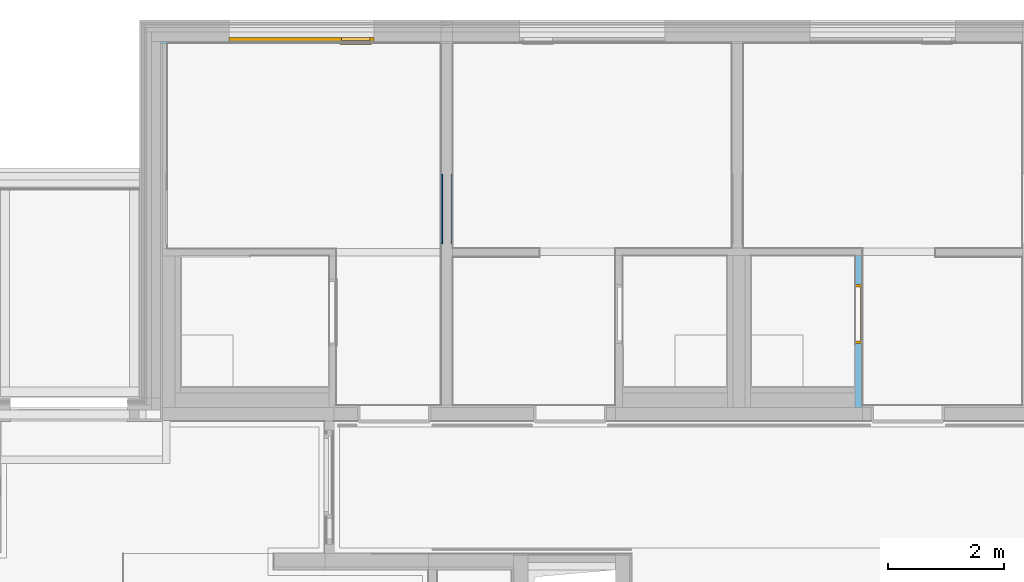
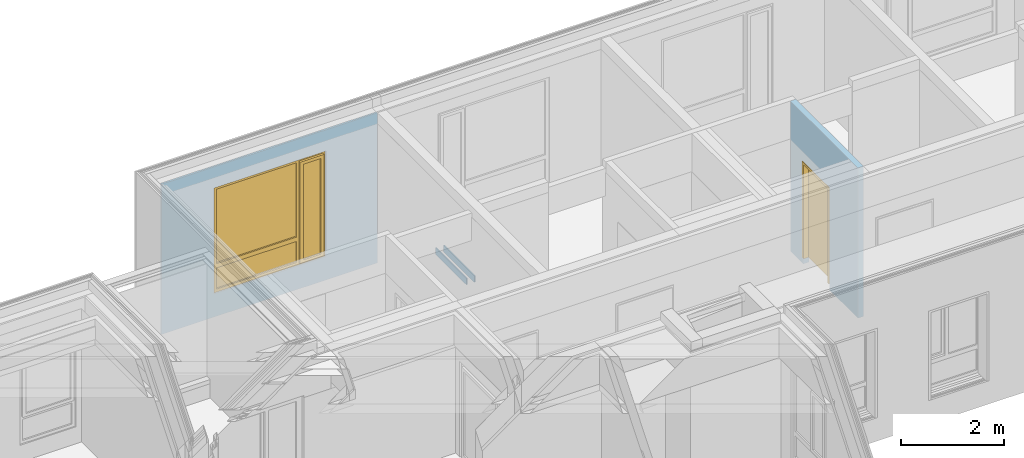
# One storey, part 141 of 222: 2 walls, 1 door, 1 window, 2 openings, plus 2 elements that do not belong to this part.
"""IFC4 building model written with IfcOpenShell, lengths in metres."""

from ifc_helpers import new_model, entity, si_unit, converted_unit, derived_unit, frame, frame_2d, origin, origin_with_axes, place, context, subcontext, project, spatial, polyline, rectangle, outline, extrude, closed_shell, open_shell, faceted_brep, surface_model, source, transform, mapped, material, type_object, element, fill, save


model = new_model("IFC4")

# Units and contexts
model_context = context("Model", 3, precision=1e-05, world=origin())
body_context = subcontext(model_context, "Body", "Model", "MODEL_VIEW")
ifc_project = project(units=[si_unit("LENGTHUNIT", "METRE"), si_unit("AREAUNIT", "SQUARE_METRE"), si_unit("VOLUMEUNIT", "CUBIC_METRE"), si_unit("MASSUNIT", "GRAM", prefix="KILO"), converted_unit("PLANEANGLEUNIT", "DEGREE", entity("IfcPlaneAngleMeasure", 0.0174532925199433), si_unit("PLANEANGLEUNIT", "RADIAN"), dimensions=[0, 0, 0, 0, 0, 0, 0]), derived_unit("THERMALTRANSMITTANCEUNIT", [(si_unit("POWERUNIT", "WATT"), 1), (si_unit("THERMODYNAMICTEMPERATUREUNIT", "KELVIN"), -1), (si_unit("LENGTHUNIT", "METRE"), -2)]), derived_unit("VOLUMETRICFLOWRATEUNIT", [(si_unit("LENGTHUNIT", "METRE"), 3), (converted_unit("TIMEUNIT", "hour", entity("IfcTimeMeasure", 3600.0), si_unit("TIMEUNIT", "SECOND"), dimensions=[0, 0, 1, 0, 0, 0, 0]), -1), (si_unit("LENGTHUNIT", "METRE"), -1)])], contexts=[model_context])

# Site, building, storey
site_placement = place(None, origin())
site = spatial("IfcSite", under=ifc_project, at=site_placement, Name="Psychiatrie Neubau Wunstorf", CompositionType="ELEMENT")
building_placement = place(site_placement, origin())
building = spatial("IfcBuilding", under=site, at=building_placement, Name="Neubau H2 Stationsgebäude", CompositionType="ELEMENT")
storey_placement = place(building_placement, frame((0.0, 0.0, 3.6)))
storey = spatial("IfcBuildingStorey", under=building, at=storey_placement, Name="H2 Ebene +1", CompositionType="ELEMENT", Elevation=3.6)

# Wall, opening, window
ifc_material_1 = material(Name="WA-LB")
wall_1_placement = place(storey_placement, frame((71.075, 31.614, 0.0), z_axis=(0.0, 0.0, 1.0), x_axis=(1.0, -3.01594097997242e-15, 0.0)))
wall_1 = element("IfcWall", 1, at=wall_1_placement, inside=storey, material=ifc_material_1, context=body_context, shape_type="SweptSolid", body=[
    extrude(rectangle(XDim=4.82499999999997, YDim=0.036, at=frame_2d((2.41249999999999, 0.018), x_axis=(1.0, 0.0))), origin_with_axes(), (0.0, 0.0, 1.0), 3.55),
])
opening_1_placement = place(wall_1_placement, frame((1.17499999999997, 0.0, 0.55), z_axis=(0.0, 1.0, 0.0), x_axis=(0.0, 0.0, 1.0)))
opening_1 = element("IfcOpeningElement", 2, at=opening_1_placement, cuts=wall_1, Name="Fensteröffnung", ObjectType="Opening", context=body_context, shape_type="SweptSolid", body=[
    extrude(outline(polyline([(2.5, 2.5), (2.5, 0.0), (0.0, 0.0), (0.0, 2.5), (2.5, 2.5)])), origin_with_axes(), (0.0, 0.0, 1.0), 0.0360000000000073),
])
shared_shape_1 = source(origin_with_axes(), body_context, "Body", "SurfaceModel", [
    surface_model("IfcShellBasedSurfaceModel", [(2.5, 0.0, 2.5), (2.5, 0.0, 0.0), (2.43, 0.0, 0.0), (2.43, 0.0, 2.5), (2.5, 0.0699999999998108, 0.0), (2.5, 0.0699999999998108, 2.5), (2.43, 0.0699999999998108, 2.5), (2.43, 0.0699999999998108, 0.0)], [closed_shell([[[0, 1, 2, 3]], [[4, 5, 6, 7]], [[1, 0, 5, 4]], [[2, 1, 4, 7]], [[3, 2, 7, 6]], [[0, 3, 6, 5]]], orient=[[False], [False], [False], [False], [False], [False]])]),
    surface_model("IfcShellBasedSurfaceModel", [(0.07, 0.0, 2.5), (0.07, 0.0, 0.0), (0.0, 0.0, 0.0), (0.0, 0.0, 2.5), (0.07, 0.0699999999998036, 0.0), (0.07, 0.0699999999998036, 2.5), (0.0, 0.0699999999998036, 2.5), (0.0, 0.0699999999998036, 0.0)], [closed_shell([[[0, 1, 2, 3]], [[4, 5, 6, 7]], [[1, 0, 5, 4]], [[2, 1, 4, 7]], [[3, 2, 7, 6]], [[0, 3, 6, 5]]], orient=[[False], [False], [False], [False], [False], [False]])]),
    surface_model("IfcShellBasedSurfaceModel", [(2.43, 0.0, 0.07), (2.43, 0.0, 0.0), (0.07, 0.0, 0.0), (0.07, 0.0, 0.07), (2.43, 0.0699999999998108, 0.0), (2.43, 0.0699999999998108, 0.07), (0.07, 0.0699999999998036, 0.07), (0.07, 0.0699999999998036, 0.0)], [closed_shell([[[0, 1, 2, 3]], [[4, 5, 6, 7]], [[1, 0, 5, 4]], [[2, 1, 4, 7]], [[3, 2, 7, 6]], [[0, 3, 6, 5]]], orient=[[False], [False], [False], [False], [False], [False]])]),
    surface_model("IfcShellBasedSurfaceModel", [(2.43, 0.0, 2.5), (2.43, 0.0, 2.43), (0.07, 0.0, 2.43), (0.07, 0.0, 2.5), (2.43, 0.0699999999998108, 2.43), (2.43, 0.0699999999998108, 2.5), (0.07, 0.0699999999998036, 2.5), (0.07, 0.0699999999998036, 2.43)], [closed_shell([[[0, 1, 2, 3]], [[4, 5, 6, 7]], [[1, 0, 5, 4]], [[2, 1, 4, 7]], [[3, 2, 7, 6]], [[0, 3, 6, 5]]], orient=[[False], [False], [False], [False], [False], [False]])]),
    surface_model("IfcShellBasedSurfaceModel", [(1.934285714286, 0.0, 2.43), (1.934285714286, 0.0, 0.07), (1.864285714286, 0.0, 0.07), (1.864285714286, 0.0, 2.43), (1.934285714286, 0.0699999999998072, 0.07), (1.934285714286, 0.0699999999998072, 2.43), (1.864285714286, 0.0699999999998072, 2.43), (1.864285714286, 0.0699999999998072, 0.07)], [closed_shell([[[0, 1, 2, 3]], [[4, 5, 6, 7]], [[1, 0, 5, 4]], [[2, 1, 4, 7]], [[3, 2, 7, 6]], [[0, 3, 6, 5]]], orient=[[False], [False], [False], [False], [False], [False]])]),
    surface_model("IfcShellBasedSurfaceModel", [(2.45, -0.05, 2.45), (2.45, -0.05, 0.05), (2.38, -0.05, 0.05), (2.38, -0.05, 2.45), (2.45, 0.0199999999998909, 0.05), (2.45, 0.0199999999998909, 2.45), (2.38, 0.0199999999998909, 2.45), (2.38, 0.0199999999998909, 0.05)], [closed_shell([[[0, 1, 2, 3]], [[4, 5, 6, 7]], [[1, 0, 5, 4]], [[2, 1, 4, 7]], [[3, 2, 7, 6]], [[0, 3, 6, 5]]], orient=[[False], [False], [False], [False], [False], [False]])]),
    surface_model("IfcShellBasedSurfaceModel", [(1.984285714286, -0.0500000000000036, 2.45), (1.984285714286, -0.0500000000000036, 0.05), (1.914285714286, -0.0500000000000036, 0.05), (1.914285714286, -0.0500000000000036, 2.45), (1.984285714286, 0.0199999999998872, 0.05), (1.984285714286, 0.0199999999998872, 2.45), (1.914285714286, 0.0199999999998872, 2.45), (1.914285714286, 0.0199999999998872, 0.05)], [closed_shell([[[0, 1, 2, 3]], [[4, 5, 6, 7]], [[1, 0, 5, 4]], [[2, 1, 4, 7]], [[3, 2, 7, 6]], [[0, 3, 6, 5]]], orient=[[False], [False], [False], [False], [False], [False]])]),
    surface_model("IfcShellBasedSurfaceModel", [(2.38, -0.05, 0.12), (2.38, -0.05, 0.05), (1.984285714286, -0.0500000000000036, 0.05), (1.984285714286, -0.0500000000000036, 0.12), (2.38, 0.0199999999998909, 0.05), (2.38, 0.0199999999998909, 0.12), (1.984285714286, 0.0199999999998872, 0.12), (1.984285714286, 0.0199999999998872, 0.05)], [closed_shell([[[0, 1, 2, 3]], [[4, 5, 6, 7]], [[1, 0, 5, 4]], [[2, 1, 4, 7]], [[3, 2, 7, 6]], [[0, 3, 6, 5]]], orient=[[False], [False], [False], [False], [False], [False]])]),
    surface_model("IfcShellBasedSurfaceModel", [(2.38, -0.05, 2.45), (2.38, -0.05, 2.38), (1.984285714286, -0.0500000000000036, 2.38), (1.984285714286, -0.0500000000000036, 2.45), (2.38, 0.0199999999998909, 2.38), (2.38, 0.0199999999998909, 2.45), (1.984285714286, 0.0199999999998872, 2.45), (1.984285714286, 0.0199999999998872, 2.38)], [closed_shell([[[0, 1, 2, 3]], [[4, 5, 6, 7]], [[1, 0, 5, 4]], [[2, 1, 4, 7]], [[3, 2, 7, 6]], [[0, 3, 6, 5]]], orient=[[False], [False], [False], [False], [False], [False]])]),
    surface_model("IfcShellBasedSurfaceModel", [(1.864285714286, 0.0, 0.67), (1.864285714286, 0.0, 0.57), (0.07, 0.0, 0.57), (0.07, 0.0, 0.67), (1.864285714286, 0.0699999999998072, 0.57), (1.864285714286, 0.0699999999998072, 0.67), (0.07, 0.0699999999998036, 0.67), (0.07, 0.0699999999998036, 0.57)], [closed_shell([[[0, 1, 2, 3]], [[4, 5, 6, 7]], [[1, 0, 5, 4]], [[2, 1, 4, 7]], [[3, 2, 7, 6]], [[0, 3, 6, 5]]], orient=[[False], [False], [False], [False], [False], [False]])]),
    surface_model("IfcShellBasedSurfaceModel", [(2.38, -0.0150000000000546, 0.12), (1.984285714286, -0.0150000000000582, 0.12), (1.984285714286, -0.0150000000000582, 2.38), (2.38, -0.0150000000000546, 2.38)], [open_shell([[[0, 1, 2, 3]]], orient=[[False]])]),
    surface_model("IfcShellBasedSurfaceModel", [(1.864285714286, 0.0349999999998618, 0.07), (0.07, 0.0349999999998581, 0.07), (0.07, 0.0349999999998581, 0.57), (1.864285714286, 0.0349999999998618, 0.57)], [open_shell([[[0, 1, 2, 3]]], orient=[[False]])]),
    surface_model("IfcShellBasedSurfaceModel", [(1.864285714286, 0.0349999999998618, 0.67), (0.07, 0.0349999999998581, 0.67), (0.07, 0.0349999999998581, 2.43), (1.864285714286, 0.0349999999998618, 2.43)], [open_shell([[[0, 1, 2, 3]]], orient=[[False]])]),
])
window_placement = place(opening_1_placement, frame((0.0, 0.0, 0.03), z_axis=(1.0, 0.0, 0.0), x_axis=(0.0, 1.0, 1.05557934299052e-16)))
window = element("IfcWindow", 3, at=window_placement, inside=storey, Name="Fenster", OverallHeight=2.5, OverallWidth=2.5, PartitioningType="USERDEFINED", PredefinedType="WINDOW", context=body_context, shape_type="MappedRepresentation", body=[
    mapped(shared_shape_1, transform((0.0, 0.0, 0.0), x_axis=(1.0, 0.0, 0.0), y_axis=(0.0, 1.0, 0.0), z_axis=(0.0, 0.0, 1.0), scale=1.0)),
])
fill(opening_1, window)

# Wall, opening, door
ifc_material_2 = material(Name="WI-LB")
wall_2_placement = place(storey_placement, frame((83.025, 27.9645, 0.0), z_axis=(0.0, 0.0, 1.0), x_axis=(0.0, -1.0, 0.0)))
wall_2 = element("IfcWall", 4, at=wall_2_placement, inside=storey, material=ifc_material_2, context=body_context, shape_type="SweptSolid", body=[
    extrude(rectangle(XDim=2.615, YDim=0.125, at=frame_2d((1.3075, 0.0625), x_axis=(1.0, 0.0))), origin_with_axes(), (0.0, 0.0, 1.0), 3.55),
])
opening_2_placement = place(wall_2_placement, frame((0.5, 0.0, 0.0), z_axis=(0.0, 1.0, 0.0), x_axis=(0.0, 0.0, 1.0)))
opening_2 = element("IfcOpeningElement", 5, at=opening_2_placement, cuts=wall_2, Name="Türöffnung", ObjectType="Opening", context=body_context, shape_type="SweptSolid", body=[
    extrude(outline(polyline([(2.41, 1.01), (2.41, 0.0), (0.0, 0.0), (0.0, 1.01), (2.41, 1.01)])), origin_with_axes(), (0.0, 0.0, 1.0), 0.125),
])
ifc_material_3 = material(Name="TI-1F-UZ-D-N")
door_type = type_object("IfcDoorType", Name="SMT", OperationType="SINGLE_SWING_RIGHT", ParameterTakesPrecedence=False, PredefinedType="DOOR")
shared_shape_2 = source(origin_with_axes(), body_context, "Body", "Brep", [
    faceted_brep([(-0.0399999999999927, 0.0124999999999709, 0.0), (0.0, 0.0124999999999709, 0.0), (0.0, 0.112499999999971, 0.0), (-0.0399999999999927, 0.112499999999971, 0.0), (-0.0399999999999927, 0.112499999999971, 3.55), (0.0, 0.112499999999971, 3.55), (0.0, 0.0124999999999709, 3.55), (-0.0399999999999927, 0.0124999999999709, 3.55)], [[[0, 1, 2, 3]], [[4, 5, 6, 7]], [[3, 4, 7, 0]], [[2, 5, 4, 3]], [[1, 6, 5, 2]], [[0, 7, 6, 1]]], orient=[[False], [False], [False], [False], [False], [False]]),
    faceted_brep([(1.01000000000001, 0.0124999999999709, 0.0), (1.05000000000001, 0.0124999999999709, 0.0), (1.05000000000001, 0.112499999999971, 0.0), (1.01000000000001, 0.112499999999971, 0.0), (1.01000000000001, 0.112499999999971, 3.55), (1.05000000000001, 0.112499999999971, 3.55), (1.05000000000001, 0.0124999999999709, 3.55), (1.01000000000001, 0.0124999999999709, 3.55)], [[[0, 1, 2, 3]], [[4, 5, 6, 7]], [[3, 4, 7, 0]], [[2, 5, 4, 3]], [[1, 6, 5, 2]], [[0, 7, 6, 1]]], orient=[[False], [False], [False], [False], [False], [False]]),
    faceted_brep([(0.0, 0.0124999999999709, 2.41), (1.01000000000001, 0.0124999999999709, 2.41), (1.01000000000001, 0.112499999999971, 2.41), (0.0, 0.112499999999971, 2.41), (0.0, 0.112499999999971, 2.45), (1.01000000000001, 0.112499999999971, 2.45), (1.01000000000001, 0.0124999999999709, 2.45), (0.0, 0.0124999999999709, 2.45)], [[[0, 1, 2, 3]], [[4, 5, 6, 7]], [[3, 4, 7, 0]], [[2, 5, 4, 3]], [[1, 6, 5, 2]], [[0, 7, 6, 1]]], orient=[[False], [False], [False], [False], [False], [False]]),
])
shared_shape_3 = source(origin_with_axes(), body_context, "Body", "Brep", [
    faceted_brep([(1.01000000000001, -0.0150000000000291, 2.41), (1.01000000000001, -0.0150000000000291, 0.15), (0.970000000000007, -0.0150000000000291, 0.15), (0.970000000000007, -0.0150000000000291, 2.41), (1.01000000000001, 0.139999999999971, 0.15), (1.01000000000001, 0.139999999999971, 2.41), (0.970000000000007, 0.139999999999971, 2.41), (0.970000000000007, 0.139999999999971, 0.15)], [[[0, 1, 2, 3]], [[4, 5, 6, 7]], [[1, 0, 5, 4]], [[2, 1, 4, 7]], [[3, 2, 7, 6]], [[0, 3, 6, 5]]], orient=[[False], [False], [False], [False], [False], [False]]),
    faceted_brep([(1.01000000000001, -0.0150000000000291, 2.425), (1.02500000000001, -0.0150000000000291, 2.425), (1.02500000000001, -0.0150000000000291, 0.15), (1.01000000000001, -0.0150000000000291, 0.15), (1.01000000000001, 0.0, 0.15), (1.02500000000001, 0.0, 0.15), (1.02500000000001, 0.0, 2.425), (1.01000000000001, 0.0, 2.425)], [[[0, 1, 2, 3]], [[4, 5, 6, 7]], [[3, 4, 7, 0]], [[2, 5, 4, 3]], [[1, 6, 5, 2]], [[0, 7, 6, 1]]], orient=[[False], [False], [False], [False], [False], [False]]),
    faceted_brep([(1.01000000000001, 0.124999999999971, 2.425), (1.02500000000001, 0.124999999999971, 2.425), (1.02500000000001, 0.124999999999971, 0.15), (1.01000000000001, 0.124999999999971, 0.15), (1.01000000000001, 0.139999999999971, 0.15), (1.02500000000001, 0.139999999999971, 0.15), (1.02500000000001, 0.139999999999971, 2.425), (1.01000000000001, 0.139999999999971, 2.425)], [[[0, 1, 2, 3]], [[4, 5, 6, 7]], [[3, 4, 7, 0]], [[2, 5, 4, 3]], [[1, 6, 5, 2]], [[0, 7, 6, 1]]], orient=[[False], [False], [False], [False], [False], [False]]),
    faceted_brep([(0.0400000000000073, -0.0150000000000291, 2.41), (0.0400000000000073, -0.0150000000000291, 0.15), (0.0, -0.0150000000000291, 0.15), (0.0, -0.0150000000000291, 2.41), (0.0400000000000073, 0.139999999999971, 0.15), (0.0400000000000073, 0.139999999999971, 2.41), (0.0, 0.139999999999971, 2.41), (0.0, 0.139999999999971, 0.15)], [[[0, 1, 2, 3]], [[4, 5, 6, 7]], [[1, 0, 5, 4]], [[2, 1, 4, 7]], [[3, 2, 7, 6]], [[0, 3, 6, 5]]], orient=[[False], [False], [False], [False], [False], [False]]),
    faceted_brep([(0.0, -0.0150000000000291, 2.425), (0.0, -0.0150000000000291, 0.15), (-0.0149999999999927, -0.0150000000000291, 0.15), (-0.0149999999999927, -0.0150000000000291, 2.425), (0.0, 0.0, 0.15), (0.0, 0.0, 2.425), (-0.0149999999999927, 0.0, 2.425), (-0.0149999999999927, 0.0, 0.15)], [[[0, 1, 2, 3]], [[4, 5, 6, 7]], [[1, 0, 5, 4]], [[2, 1, 4, 7]], [[3, 2, 7, 6]], [[0, 3, 6, 5]]], orient=[[False], [False], [False], [False], [False], [False]]),
    faceted_brep([(0.0, 0.124999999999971, 2.425), (0.0, 0.124999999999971, 0.15), (-0.0149999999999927, 0.124999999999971, 0.15), (-0.0149999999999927, 0.124999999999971, 2.425), (0.0, 0.139999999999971, 0.15), (0.0, 0.139999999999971, 2.425), (-0.0149999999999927, 0.139999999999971, 2.425), (-0.0149999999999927, 0.139999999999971, 0.15)], [[[0, 1, 2, 3]], [[4, 5, 6, 7]], [[1, 0, 5, 4]], [[2, 1, 4, 7]], [[3, 2, 7, 6]], [[0, 3, 6, 5]]], orient=[[False], [False], [False], [False], [False], [False]]),
    faceted_brep([(0.970000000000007, -0.0150000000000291, 2.41), (0.970000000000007, -0.0150000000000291, 2.37), (0.0400000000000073, -0.0150000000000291, 2.37), (0.0400000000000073, -0.0150000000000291, 2.41), (0.970000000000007, 0.139999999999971, 2.37), (0.970000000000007, 0.139999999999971, 2.41), (0.0400000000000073, 0.139999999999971, 2.41), (0.0400000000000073, 0.139999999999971, 2.37)], [[[0, 1, 2, 3]], [[4, 5, 6, 7]], [[1, 0, 5, 4]], [[2, 1, 4, 7]], [[3, 2, 7, 6]], [[0, 3, 6, 5]]], orient=[[False], [False], [False], [False], [False], [False]]),
    faceted_brep([(1.01000000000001, -0.0150000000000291, 2.425), (1.01000000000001, -0.0150000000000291, 2.41), (0.0, -0.0150000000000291, 2.41), (0.0, -0.0150000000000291, 2.425), (1.01000000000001, 0.0, 2.41), (1.01000000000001, 0.0, 2.425), (0.0, 0.0, 2.425), (0.0, 0.0, 2.41)], [[[0, 1, 2, 3]], [[4, 5, 6, 7]], [[1, 0, 5, 4]], [[2, 1, 4, 7]], [[3, 2, 7, 6]], [[0, 3, 6, 5]]], orient=[[False], [False], [False], [False], [False], [False]]),
    faceted_brep([(1.01000000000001, 0.124999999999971, 2.425), (1.01000000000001, 0.124999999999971, 2.41), (0.0, 0.124999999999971, 2.41), (0.0, 0.124999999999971, 2.425), (1.01000000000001, 0.139999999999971, 2.41), (1.01000000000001, 0.139999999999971, 2.425), (0.0, 0.139999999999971, 2.425), (0.0, 0.139999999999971, 2.41)], [[[0, 1, 2, 3]], [[4, 5, 6, 7]], [[1, 0, 5, 4]], [[2, 1, 4, 7]], [[3, 2, 7, 6]], [[0, 3, 6, 5]]], orient=[[False], [False], [False], [False], [False], [False]]),
    faceted_brep([(0.985000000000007, 0.0909999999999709, 2.385), (0.985000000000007, 0.0909999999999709, 0.15), (0.0250000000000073, 0.0909999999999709, 0.15), (0.0250000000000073, 0.0909999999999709, 2.385), (0.985000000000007, 0.140999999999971, 0.15), (0.985000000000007, 0.140999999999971, 2.385), (0.0250000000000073, 0.140999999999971, 2.385), (0.0250000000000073, 0.140999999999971, 0.15)], [[[0, 1, 2, 3]], [[4, 5, 6, 7]], [[1, 0, 5, 4]], [[2, 1, 4, 7]], [[3, 2, 7, 6]], [[0, 3, 6, 5]]], orient=[[False], [False], [False], [False], [False], [False]]),
])
door_placement = place(opening_2_placement, frame((0.0, 0.0, 0.0), z_axis=(1.0, 0.0, 0.0), x_axis=(0.0, 1.0, 0.0)))
door = element("IfcDoor", 6, at=door_placement, inside=storey, type_object=door_type, material=ifc_material_3, Name="SMT", OverallHeight=2.41, OverallWidth=1.01, context=body_context, shape_type="MappedRepresentation", body=[
    mapped(shared_shape_2, transform((0.0, 0.0, 0.0), x_axis=(1.0, 0.0, 0.0), y_axis=(0.0, 1.0, 0.0), z_axis=(0.0, 0.0, 1.0), scale=1.0)),
    mapped(shared_shape_3, transform((0.0, 0.0, 0.0), x_axis=(1.0, 0.0, 0.0), y_axis=(0.0, 1.0, 0.0), z_axis=(0.0, 0.0, 1.0), scale=1.0)),
])
fill(opening_2, door)

# Walls
for number, where, name in (
    (7, (75.9, 28.1628000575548, 1.575), "WV 1.1"),
    (8, (76.075, 28.1628, 1.575), "WV 1.1"),
):
    element("IfcWall", number, at=place(storey_placement, frame(where)), inside=storey, Name=name, context=body_context, shape_type="Brep", body=[
        faceted_brep([(0.025, 1.2, 0.0), (0.0, 1.2, 0.0), (0.0, 0.0, 0.0), (0.025, 0.0, 0.0), (0.0, 1.2, 0.15), (0.025, 1.2, 0.15), (0.025, 0.0, 0.15), (0.0, 0.0, 0.15)], [[[0, 1, 2, 3]], [[4, 5, 6, 7]], [[1, 0, 5, 4]], [[2, 1, 4, 7]], [[3, 2, 7, 6]], [[0, 3, 6, 5]]], orient=[[False], [False], [False], [False], [False], [False]]),
    ])

save(model, "model.ifc")
